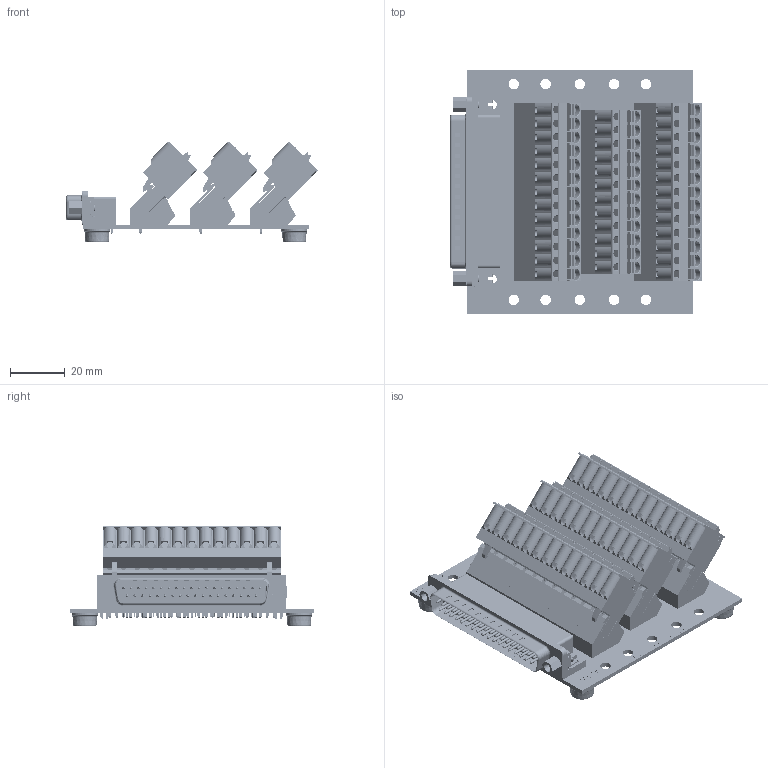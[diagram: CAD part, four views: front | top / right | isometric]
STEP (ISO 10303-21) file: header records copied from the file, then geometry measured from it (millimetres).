
FILE_DESCRIPTION (( 'STEP AP214' ), '1' );
FILE_NAME ('brkld37m-rg-ft_rev_a.stp', '2021-03-09T04:11:38', ( '' ), ( '' ), 'SwSTEP 2.0', 'SolidWorks 2017', '' );
FILE_SCHEMA (( 'AUTOMOTIVE_DESIGN' ));
Length unit declared in the file: inch
Products named in the file (8): Angled Terminals 13; Spring Terminals 12; Spring Terminals 13; Male Right Angle 37 Pin; BRKLD37M Board; brkld37m-rg-ft_rev_a; RubberFoot; Angled Terminals 12
Assembly tree (12 placements, depth 2):
  brkld37m-rg-ft_rev_a
    BRKLD37M Board
    Male Right Angle 37 Pin
    RubberFoot  x4
    Angled Terminals 12
    Angled Terminals 13  x2
    Spring Terminals 12
    Spring Terminals 13  x2
Bounding box: 91.82 x 88.9 x 36.86 mm (x, y, z)
Volume: 80225.8 mm3; surface area: 70431.6 mm2
Topology: 11 solids, 277 shells, 14618 faces, 36572 edges, 22777 vertices
Faces by surface type: plane 7299, bspline 3804, cylinder 3283, cone 198, torus 34
Entity records: 685234 total; most frequent: CARTESIAN_POINT 278441, ORIENTED_EDGE 63632, DIRECTION 48891, EDGE_CURVE 31984, VERTEX_POINT 20008, LINE 18715, VECTOR 18715, AXIS2_PLACEMENT_3D 15088
